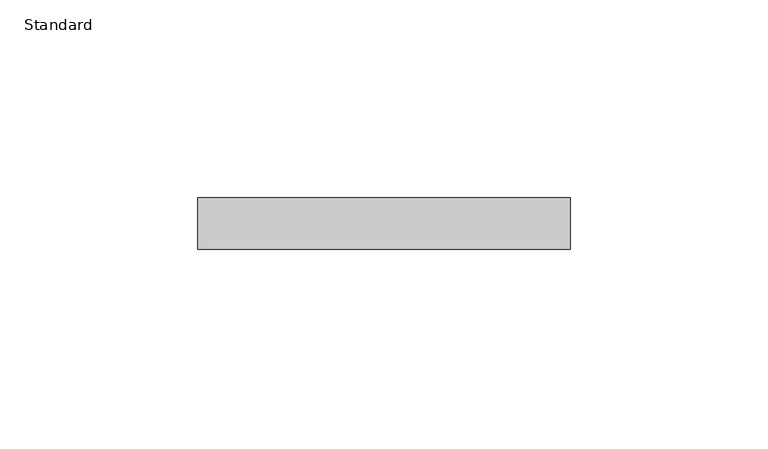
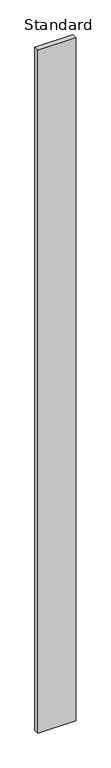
"""IFC4 building model written with IfcOpenShell, lengths in millimetres: furniture geometry, X_Partition-Compact Laminate-Duracube-Rectangular : Standard."""

from ifc_helpers import new_model, si_unit, frame, origin, place, context, project, spatial, polyline, outline, extrude, source, transform, mapped, element, save


def standard_f7e84a1b(model_context):
    return source(origin(), model_context, "Body", "SweptSolid", [
        extrude(outline(polyline([(91.7003264, 0.0), (91.7003264, -13.0), (-2.2996736, -13.0), (-2.2996736, 0.0), (91.7003264, 0.0)])), frame((0.0, 0.0, 200.0), z_axis=(0.0, 0.0, 1.0), x_axis=(1.0, 0.0, 0.0)), (0.0, 0.0, 1.0), 1799.0),
    ])


if __name__ == "__main__":
    model = new_model("IFC4")
    model_context = context("Model", 3, world=origin())
    ifc_project = project(units=[si_unit("LENGTHUNIT", "METRE", prefix="MILLI")], contexts=[model_context])
    site = spatial("IfcSite", under=ifc_project)
    building = spatial("IfcBuilding", under=site)
    placement = place(None, origin())
    standard_shape = standard_f7e84a1b(model_context)
    element("IfcFurniture", 1, ObjectType="X_Partition-Compact Laminate-Duracube-Rectangular : Standard", at=placement, inside=building, context=model_context, shape_type="MappedRepresentation", body=[
        mapped(standard_shape, transform((0.0, 0.0, 0.0), x_axis=(1.0, 0.0, 0.0), y_axis=(0.0, 1.0, 0.0), z_axis=(0.0, 0.0, 1.0))),
    ])
    save(model, "model.ifc")
